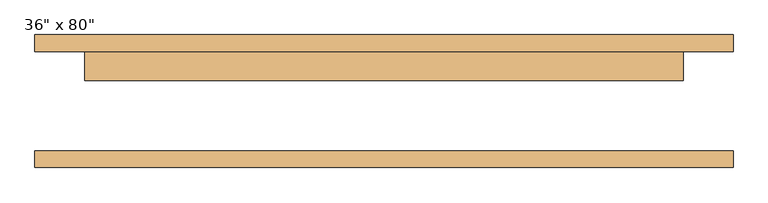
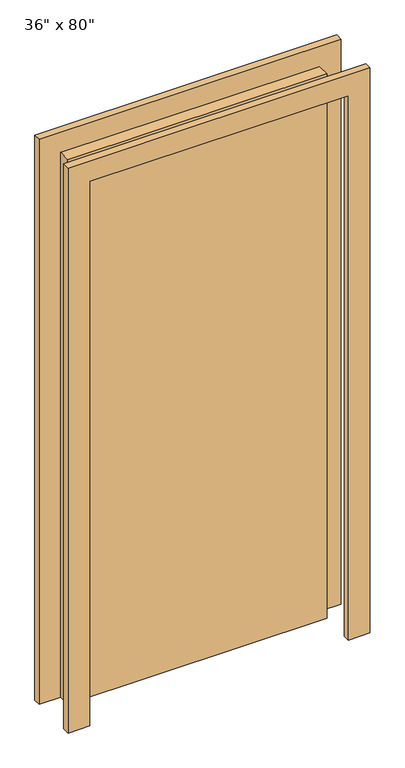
"""IFC4 building model written with IfcOpenShell, lengths in millimetres: door geometry."""

from ifc_helpers import new_model, si_unit, frame, origin, origin_with_axes, place, context, project, spatial, polyline, outline, extrude, source, transform, mapped, element, save


def door_6a42c115(model_context):
    return source(origin(), model_context, "Body", "SweptSolid", [
        extrude(outline(polyline([(2108.2, -533.4), (0.0, -533.4), (0.0, -457.2), (2032.0, -457.2), (2032.0, 457.2), (0.0, 457.2), (0.0, 533.4), (2108.2, 533.4), (2108.2, -533.4)])), frame((0.0, 76.2, 0.0), z_axis=(0.0, 1.0, 0.0), x_axis=(0.0, 0.0, 1.0)), (0.0, 0.0, 1.0), 25.4),
        extrude(outline(polyline([(2108.2, 533.4), (2108.2, -533.4), (0.0, -533.4), (0.0, -457.2), (2032.0, -457.2), (2032.0, 457.2), (0.0, 457.2), (0.0, 533.4), (2108.2, 533.4)])), frame((0.0, -101.6, 0.0), z_axis=(0.0, 1.0, 0.0), x_axis=(0.0, 0.0, 1.0)), (0.0, 0.0, 1.0), 25.4),
        extrude(outline(polyline([(457.2, 31.75), (-457.2, 31.75), (-457.2, 76.2), (457.2, 76.2), (457.2, 31.75)])), origin_with_axes(), (0.0, 0.0, 1.0), 2032.0),
    ])


if __name__ == "__main__":
    model = new_model("IFC4")
    model_context = context("Model", 3, world=origin())
    ifc_project = project(units=[si_unit("LENGTHUNIT", "METRE", prefix="MILLI")], contexts=[model_context])
    site = spatial("IfcSite", under=ifc_project)
    building = spatial("IfcBuilding", under=site)
    placement = place(None, origin())
    door_shape = door_6a42c115(model_context)
    element("IfcDoor", 1, ObjectType="VA7500 VA4 - Alki : 36\" x 80\"", at=placement, inside=building, context=model_context, shape_type="MappedRepresentation", body=[
        mapped(door_shape, transform((0.0, 0.0, 0.0), x_axis=(1.0, 0.0, 0.0), y_axis=(0.0, 1.0, 0.0), z_axis=(0.0, 0.0, 1.0))),
    ])
    save(model, "model.ifc")
